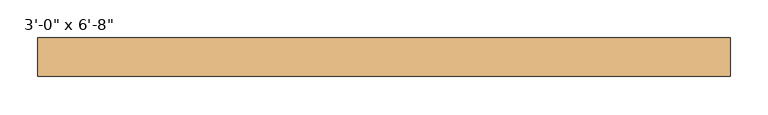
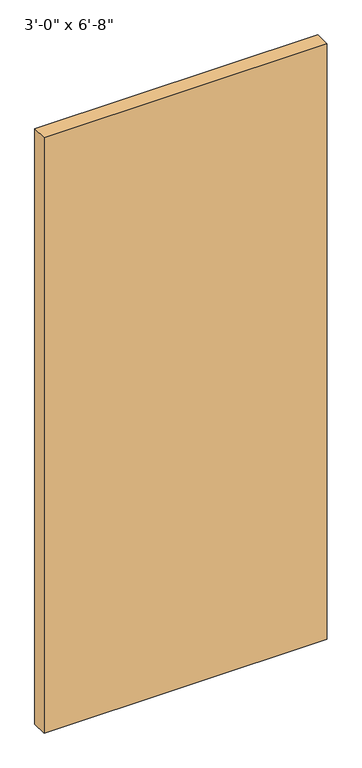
"""IFC4 building model written with IfcOpenShell, lengths in millimetres: door geometry."""

import ifcopenshell
import ifcopenshell.guid

model = None  # the IFC model being written
_history = None  # IfcOwnerHistory: only IFC2X3 demands one
_inside = {}  # id of a spatial element -> (the spatial element, [elements in it])
_under = {}  # id of a project, library or spatial element -> (it, [spatial elements below it])
_declared = {}  # id of a project -> (the project, [libraries it declares])
_typed = {}  # id of a type object -> (the type object, [elements of that type])
_made_of = {}  # id of a material, layer set ... -> (it, [elements and type objects made of it])


def new_model(schema):
    """Start an empty IFC model of exactly this schema.

    Asked for "IFC4X3", IfcOpenShell would pick the latest addendum, in which some entities
    have other attributes; the version numbers below select the first issue.
    IFC2X3 requires an IfcOwnerHistory on every rooted entity: one is made here for all.
    """
    global model, _history
    if schema == "IFC4X3":
        model = ifcopenshell.file(schema_version=(4, 3, 0, 0))
    else:
        model = ifcopenshell.file(schema=schema)
    _inside.clear()
    _under.clear()
    _declared.clear()
    _typed.clear()
    _made_of.clear()
    _history = None
    if model.schema == "IFC2X3":
        org = make("IfcOrganization", Name="unknown")
        user = make(
            "IfcPersonAndOrganization",
            ThePerson=make("IfcPerson", FamilyName="unknown"),
            TheOrganization=org,
        )
        app = make(
            "IfcApplication",
            ApplicationDeveloper=org,
            Version="unknown",
            ApplicationFullName="unknown",
            ApplicationIdentifier="unknown",
        )
        _history = make(
            "IfcOwnerHistory",
            OwningUser=user,
            OwningApplication=app,
            ChangeAction="ADDED",
            CreationDate=0,
        )
    return model


def make(cls, **values):
    """One entity of the class cls with the attributes given. An attribute that is None is left unset."""
    return model.create_entity(
        cls, **{name: value for name, value in values.items() if value is not None}
    )


def rooted(cls, **values):
    """An entity with a GlobalId (a new one), such as an element, a storey or a relation."""
    return make(cls, GlobalId=ifcopenshell.guid.new(), OwnerHistory=_history, **values)


def si_unit(unit_type, name, prefix=None):
    """IfcSIUnit, for example si_unit("LENGTHUNIT", "METRE", prefix="MILLI")."""
    return make("IfcSIUnit", UnitType=unit_type, Prefix=prefix, Name=name)


def assignment(units):
    """IfcUnitAssignment: the units of a project."""
    return None if units is None else make("IfcUnitAssignment", Units=units)


def point(xyz):
    """IfcCartesianPoint."""
    return None if xyz is None else make("IfcCartesianPoint", Coordinates=xyz)


def direction(xyz):
    """IfcDirection."""
    return None if xyz is None else make("IfcDirection", DirectionRatios=xyz)


def frame(location, z_axis=None, x_axis=None):
    """IfcAxis2Placement3D, a coordinate frame: its origin and axes. An axis left out is left unset."""
    return make(
        "IfcAxis2Placement3D",
        Location=point(location),
        Axis=direction(z_axis),
        RefDirection=direction(x_axis),
    )


def origin():
    """The frame at (0, 0, 0) with its axes left unset."""
    return frame((0.0, 0.0, 0.0))


def origin_with_axes():
    """The frame at (0, 0, 0) with the z axis (0, 0, 1) and the x axis (1, 0, 0) written out."""
    return frame((0.0, 0.0, 0.0), z_axis=(0.0, 0.0, 1.0), x_axis=(1.0, 0.0, 0.0))


def place(relative_to, where):
    """IfcLocalPlacement: puts the frame where relative to a parent placement (None: the world)."""
    return make(
        "IfcLocalPlacement", PlacementRelTo=relative_to, RelativePlacement=where
    )


def context(
    kind, dimensions, precision=None, world=None, true_north=None, identifier=None
):
    """IfcGeometricRepresentationContext, for example the 3D "Model" context."""
    return make(
        "IfcGeometricRepresentationContext",
        ContextIdentifier=identifier,
        ContextType=kind,
        CoordinateSpaceDimension=dimensions,
        Precision=precision,
        WorldCoordinateSystem=world,
        TrueNorth=true_north,
    )


def project(units=None, contexts=None):
    """IfcProject with its units and contexts."""
    return rooted(
        "IfcProject",
        Name="project",
        RepresentationContexts=contexts,
        UnitsInContext=assignment(units),
    )


def spatial(cls, under=None, at=None, **own):
    """A site, building, storey or space (cls), placed at a placement, below another one or the project."""
    s = rooted(cls, ObjectPlacement=at, **own)
    if under is not None:
        _under.setdefault(under.id(), (under, []))[1].append(s)
    return s


def polyline(points):
    """IfcPolyline through the points."""
    return make("IfcPolyline", Points=[point(p) for p in points])


def outline(outer, holes=None, kind="AREA"):
    """IfcArbitraryClosedProfileDef: a profile drawn as a closed curve; with holes, ...WithVoids."""
    if holes is None:
        return make("IfcArbitraryClosedProfileDef", ProfileType=kind, OuterCurve=outer)
    return make(
        "IfcArbitraryProfileDefWithVoids",
        ProfileType=kind,
        OuterCurve=outer,
        InnerCurves=holes,
    )


def extrude(swept, where, along, depth):
    """IfcExtrudedAreaSolid: the profile swept, set in the frame where, extruded along a direction by depth."""
    return make(
        "IfcExtrudedAreaSolid",
        SweptArea=swept,
        Position=where,
        ExtrudedDirection=direction(along),
        Depth=depth,
    )


def shape(context_of_items, identifier, shape_type, items):
    """IfcShapeRepresentation: the items that make up one representation, for example the "Body"."""
    return make(
        "IfcShapeRepresentation",
        ContextOfItems=context_of_items,
        RepresentationIdentifier=identifier,
        RepresentationType=shape_type,
        Items=items,
    )


def source(mapping_origin, context_of_items, identifier, shape_type, items):
    """IfcRepresentationMap: a shape defined once, which mapped items show again and again."""
    return make(
        "IfcRepresentationMap",
        MappingOrigin=mapping_origin,
        MappedRepresentation=shape(context_of_items, identifier, shape_type, items),
    )


def transform(
    local_origin,
    x_axis=None,
    y_axis=None,
    z_axis=None,
    scale=None,
    scale2=None,
    scale3=None,
    uniform=True,
):
    """IfcCartesianTransformationOperator3D, or its non-uniform kind. x_axis, y_axis, z_axis: its Axis1, 2, 3."""
    if uniform:
        return make(
            "IfcCartesianTransformationOperator3D",
            Axis1=direction(x_axis),
            Axis2=direction(y_axis),
            LocalOrigin=point(local_origin),
            Scale=scale,
            Axis3=direction(z_axis),
        )
    return make(
        "IfcCartesianTransformationOperator3DnonUniform",
        Axis1=direction(x_axis),
        Axis2=direction(y_axis),
        LocalOrigin=point(local_origin),
        Scale=scale,
        Axis3=direction(z_axis),
        Scale2=scale2,
        Scale3=scale3,
    )


def mapped(mapping_source, mapping_target):
    """IfcMappedItem: shows the shape of a source again, moved by a transform."""
    return make(
        "IfcMappedItem", MappingSource=mapping_source, MappingTarget=mapping_target
    )


def made_of(thing, what):
    """Note that an element or type object is made of a material, layer set ...; save() writes the relation."""
    if what is not None:
        _made_of.setdefault(what.id(), (what, []))[1].append(thing)
    return thing


def element(
    cls,
    number,
    at=None,
    inside=None,
    cuts=None,
    type_object=None,
    material=None,
    context=None,
    identifier="Body",
    shape_type=None,
    held_by="IfcProductDefinitionShape",
    body=None,
    shapes=None,
    **own,
):
    """One element of the class cls, such as IfcWall. Its Tag is "e" and its number.

    at: its placement. inside: the storey or other place that contains it. cuts: it is an
    opening in that element (IfcRelVoidsElement). A single representation is given by context,
    identifier, shape_type and body (its items); several are given by shapes. held_by: the class
    of the entity that holds the representations. save() writes the other relations.
    """
    e = rooted(cls, Tag="e%d" % number, ObjectPlacement=at, **own)
    if body is not None:
        shapes = [shape(context, identifier, shape_type, body)]
    if shapes is not None:
        e.Representation = make(held_by, Representations=shapes)
    if inside is not None:
        _inside.setdefault(inside.id(), (inside, []))[1].append(e)
    if cuts is not None:
        rooted(
            "IfcRelVoidsElement", RelatingBuildingElement=cuts, RelatedOpeningElement=e
        )
    if type_object is not None:
        _typed.setdefault(type_object.id(), (type_object, []))[1].append(e)
    return made_of(e, material)


def aggregate(whole, parts):
    """IfcRelAggregates: a whole, such as a stair, and the parts it consists of."""
    return rooted("IfcRelAggregates", RelatingObject=whole, RelatedObjects=parts)


def save(model, path):
    """Write the relations noted so far, then the file.

    IfcRelAggregates (storeys below a building ...), IfcRelContainedInSpatialStructure (elements
    in a storey), IfcRelDefinesByType, IfcRelAssociatesMaterial and IfcRelDeclares: one each for
    every whole, place, type object, material and project.
    """
    for whole, parts in _under.values():
        aggregate(whole, parts)
    for where, things in _inside.values():
        rooted(
            "IfcRelContainedInSpatialStructure",
            RelatedElements=things,
            RelatingStructure=where,
        )
    for kind, things in _typed.values():
        rooted("IfcRelDefinesByType", RelatedObjects=things, RelatingType=kind)
    for what, things in _made_of.values():
        rooted("IfcRelAssociatesMaterial", RelatedObjects=things, RelatingMaterial=what)
    for by, libraries in _declared.values():
        rooted("IfcRelDeclares", RelatingContext=by, RelatedDefinitions=libraries)
    model.write(path)


def door_4f417b9d(model_context):
    return source(origin(), model_context, "Body", "SweptSolid", [
        extrude(outline(polyline([(457.2, -31.55), (457.2, -82.55), (-457.2, -82.55), (-457.2, -31.55), (457.2, -31.55)])), origin_with_axes(), (0.0, 0.0, 1.0), 2032.0),
    ])


if __name__ == "__main__":
    model = new_model("IFC4")
    model_context = context("Model", 3, world=origin())
    ifc_project = project(units=[si_unit("LENGTHUNIT", "METRE", prefix="MILLI")], contexts=[model_context])
    site = spatial("IfcSite", under=ifc_project)
    building = spatial("IfcBuilding", under=site)
    placement = place(None, origin())
    door_shape = door_4f417b9d(model_context)
    element("IfcDoor", 1, ObjectType="Planitar - Single Door_Flush Panel : 3'-0\" x 6'-8\"", at=placement, inside=building, context=model_context, shape_type="MappedRepresentation", body=[
        mapped(door_shape, transform((0.0, 0.0, 0.0), x_axis=(1.0, 0.0, 0.0), y_axis=(0.0, 1.0, 0.0), z_axis=(0.0, 0.0, 1.0))),
    ])
    save(model, "model.ifc")
